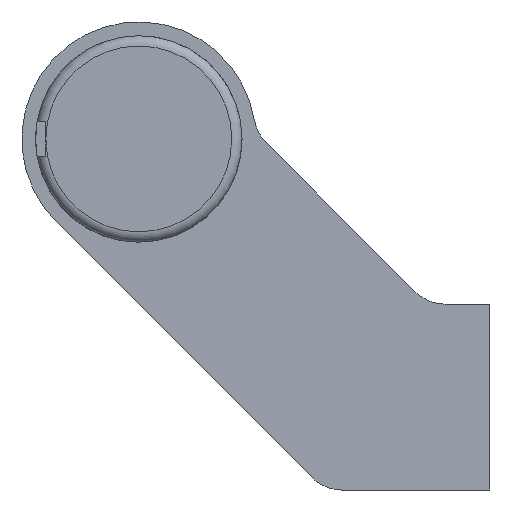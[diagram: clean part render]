
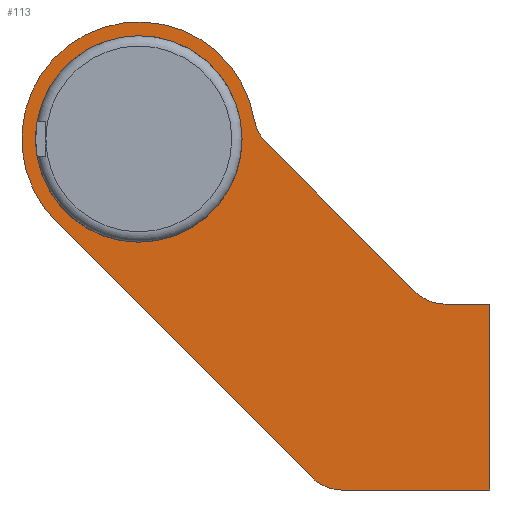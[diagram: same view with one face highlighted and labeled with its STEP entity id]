
A CAD part, left-side view. The second image highlights one B-rep face of the part: STEP entity #113.
In plain terms, the highlighted planar face has unit normal (-1, 0, 0).
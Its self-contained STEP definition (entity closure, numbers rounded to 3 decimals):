
#113 = ADVANCED_FACE( '', ( #212, #213 ), #214, .F. );
#212 = FACE_BOUND( '', #325, .T. );
#213 = FACE_OUTER_BOUND( '', #326, .T. );
#214 = PLANE( '', #327 );
#325 = EDGE_LOOP( '', ( #621 ) );
#326 = EDGE_LOOP( '', ( #622, #623, #624, #625, #626, #627, #628, #629, #630 ) );
#327 = AXIS2_PLACEMENT_3D( '', #631, #632, #633 );
#621 = ORIENTED_EDGE( '', *, *, #734, .T. );
#622 = ORIENTED_EDGE( '', *, *, #761, .F. );
#623 = ORIENTED_EDGE( '', *, *, #735, .F. );
#624 = ORIENTED_EDGE( '', *, *, #739, .F. );
#625 = ORIENTED_EDGE( '', *, *, #743, .F. );
#626 = ORIENTED_EDGE( '', *, *, #746, .F. );
#627 = ORIENTED_EDGE( '', *, *, #749, .T. );
#628 = ORIENTED_EDGE( '', *, *, #752, .F. );
#629 = ORIENTED_EDGE( '', *, *, #755, .T. );
#630 = ORIENTED_EDGE( '', *, *, #758, .F. );
#631 = CARTESIAN_POINT( '', ( -258.5, 51., 37.5 ) );
#632 = DIRECTION( '', ( 1., 0., 0. ) );
#633 = DIRECTION( '', ( 0., 0., -1. ) );
#734 = EDGE_CURVE( '', #866, #866, #867, .T. );
#735 = EDGE_CURVE( '', #868, #869, #870, .T. );
#739 = EDGE_CURVE( '', #876, #868, #877, .T. );
#743 = EDGE_CURVE( '', #883, #876, #884, .T. );
#746 = EDGE_CURVE( '', #888, #883, #889, .T. );
#749 = EDGE_CURVE( '', #888, #893, #894, .T. );
#752 = EDGE_CURVE( '', #898, #893, #899, .T. );
#755 = EDGE_CURVE( '', #898, #903, #904, .T. );
#758 = EDGE_CURVE( '', #908, #903, #909, .T. );
#761 = EDGE_CURVE( '', #869, #908, #913, .T. );
#866 = VERTEX_POINT( '', #1114 );
#867 = CIRCLE( '', #1115, 15. );
#868 = VERTEX_POINT( '', #1116 );
#869 = VERTEX_POINT( '', #1117 );
#870 = CIRCLE( '', #1118, 6. );
#876 = VERTEX_POINT( '', #1126 );
#877 = LINE( '', #1127, #1128 );
#883 = VERTEX_POINT( '', #1136 );
#884 = LINE( '', #1137, #1138 );
#888 = VERTEX_POINT( '', #1144 );
#889 = LINE( '', #1145, #1146 );
#893 = VERTEX_POINT( '', #1152 );
#894 = CIRCLE( '', #1153, 6. );
#898 = VERTEX_POINT( '', #1158 );
#899 = LINE( '', #1159, #1160 );
#903 = VERTEX_POINT( '', #1166 );
#904 = CIRCLE( '', #1167, 6. );
#908 = VERTEX_POINT( '', #1172 );
#909 = CIRCLE( '', #1173, 17. );
#913 = LINE( '', #1178, #1179 );
#1114 = CARTESIAN_POINT( '', ( -258.5, 51., 22.5 ) );
#1115 = AXIS2_PLACEMENT_3D( '', #1285, #1286, #1287 );
#1116 = CARTESIAN_POINT( '', ( -258.5, 21.556, -13.5 ) );
#1117 = CARTESIAN_POINT( '', ( -258.5, 25.799, -11.743 ) );
#1118 = AXIS2_PLACEMENT_3D( '', #1288, #1289, #1290 );
#1126 = CARTESIAN_POINT( '', ( -258.5, 0., -13.5 ) );
#1127 = CARTESIAN_POINT( '', ( -258.5, 0., -13.5 ) );
#1128 = VECTOR( '', #1296, 1000. );
#1136 = CARTESIAN_POINT( '', ( -258.5, 0., 13.5 ) );
#1137 = CARTESIAN_POINT( '', ( -258.5, 0., 13.5 ) );
#1138 = VECTOR( '', #1302, 1000. );
#1144 = CARTESIAN_POINT( '', ( -258.5, 6.515, 13.5 ) );
#1145 = CARTESIAN_POINT( '', ( -258.5, 6.515, 13.5 ) );
#1146 = VECTOR( '', #1305, 1000. );
#1152 = CARTESIAN_POINT( '', ( -258.5, 10.757, 15.257 ) );
#1153 = AXIS2_PLACEMENT_3D( '', #1308, #1309, #1310 );
#1158 = CARTESIAN_POINT( '', ( -258.5, 32.559, 37.059 ) );
#1159 = CARTESIAN_POINT( '', ( -258.5, 32.559, 37.059 ) );
#1160 = VECTOR( '', #1315, 1000. );
#1166 = CARTESIAN_POINT( '', ( -258.5, 34.234, 40.31 ) );
#1167 = AXIS2_PLACEMENT_3D( '', #1318, #1319, #1320 );
#1172 = CARTESIAN_POINT( '', ( -258.5, 63.021, 25.479 ) );
#1173 = AXIS2_PLACEMENT_3D( '', #1325, #1326, #1327 );
#1178 = CARTESIAN_POINT( '', ( -258.5, 25.799, -11.743 ) );
#1179 = VECTOR( '', #1332, 1000. );
#1285 = CARTESIAN_POINT( '', ( -258.5, 51., 37.5 ) );
#1286 = DIRECTION( '', ( 1., 0., 0. ) );
#1287 = DIRECTION( '', ( 0., 0., -1. ) );
#1288 = CARTESIAN_POINT( '', ( -258.5, 21.556, -7.5 ) );
#1289 = DIRECTION( '', ( 1., 0., 0. ) );
#1290 = DIRECTION( '', ( 0., 0., -1. ) );
#1296 = DIRECTION( '', ( 0., 1., 0. ) );
#1302 = DIRECTION( '', ( 0., 0., -1. ) );
#1305 = DIRECTION( '', ( 0., -1., 0. ) );
#1308 = CARTESIAN_POINT( '', ( -258.5, 6.515, 19.5 ) );
#1309 = DIRECTION( '', ( 1., 0., 0. ) );
#1310 = DIRECTION( '', ( 0., 0., -1. ) );
#1315 = DIRECTION( '', ( 0., -0.707, -0.707 ) );
#1318 = CARTESIAN_POINT( '', ( -258.5, 28.316, 41.302 ) );
#1319 = DIRECTION( '', ( 1., 0., 0. ) );
#1320 = DIRECTION( '', ( 0., 0., -1. ) );
#1325 = CARTESIAN_POINT( '', ( -258.5, 51., 37.5 ) );
#1326 = DIRECTION( '', ( 1., 0., 0. ) );
#1327 = DIRECTION( '', ( 0., 0., -1. ) );
#1332 = DIRECTION( '', ( 0., 0.707, 0.707 ) );
